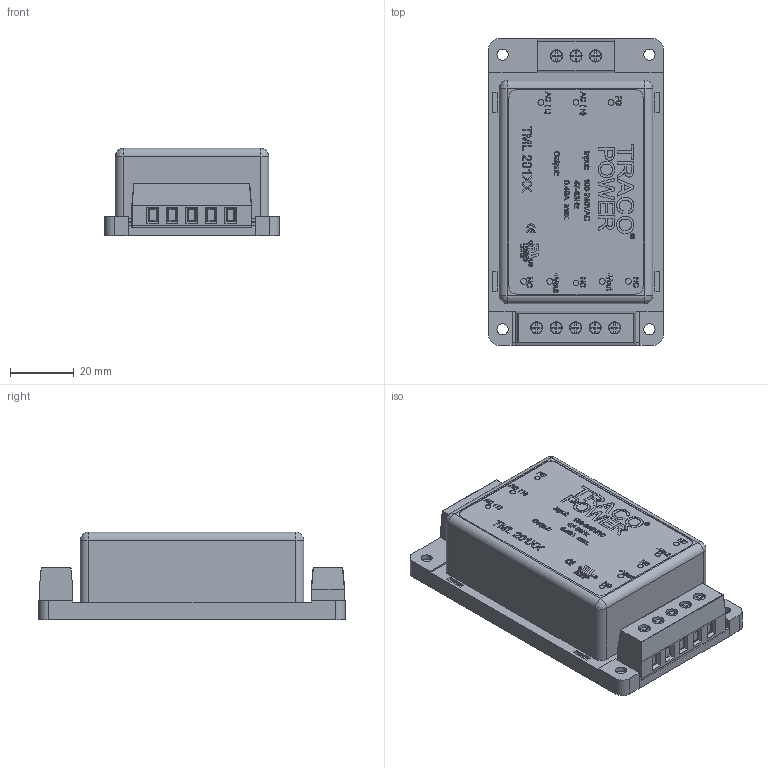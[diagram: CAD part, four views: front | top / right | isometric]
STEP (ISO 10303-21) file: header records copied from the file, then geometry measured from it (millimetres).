
FILE_DESCRIPTION (( 'STEP AP214' ), '1' );
FILE_NAME ('tml20c-single.STEP', '2015-02-20T08:16:15', ( '' ), ( '' ), 'SwSTEP 2.0', 'SolidWorks 2013', '' );
FILE_SCHEMA (( 'AUTOMOTIVE_DESIGN' ));
Length unit declared in the file: millimetre
Products named in the file (10): tml20c_single; TM15ST B; TM15ST T; TMLST PCB; tml20c-single; TML20; TML20 B; TML20 T; TML20 ST
Assembly tree (9 placements, depth 3):
  tml20c-single
    TML20 ST
      TMLST PCB
      TM15ST T
      TM15ST B
      tml20c_single
      tml20c_single
    TML20
      TML20 T
      TML20 B
Bounding box: 54.6 x 95.9 x 27.5 mm (x, y, z)
Volume: 37297.9 mm3; surface area: 59736.4 mm2
Topology: 15 solids, 15 shells, 2077 faces, 5518 edges, 3651 vertices
Faces by surface type: plane 1337, bspline 497, cylinder 234, torus 9
Entity records: 131155 total; most frequent: CARTESIAN_POINT 59281, ORIENTED_EDGE 11012, DIRECTION 8101, EDGE_CURVE 5506, LINE 4029, VECTOR 4029, VERTEX_POINT 3651, EDGE_LOOP 2323
